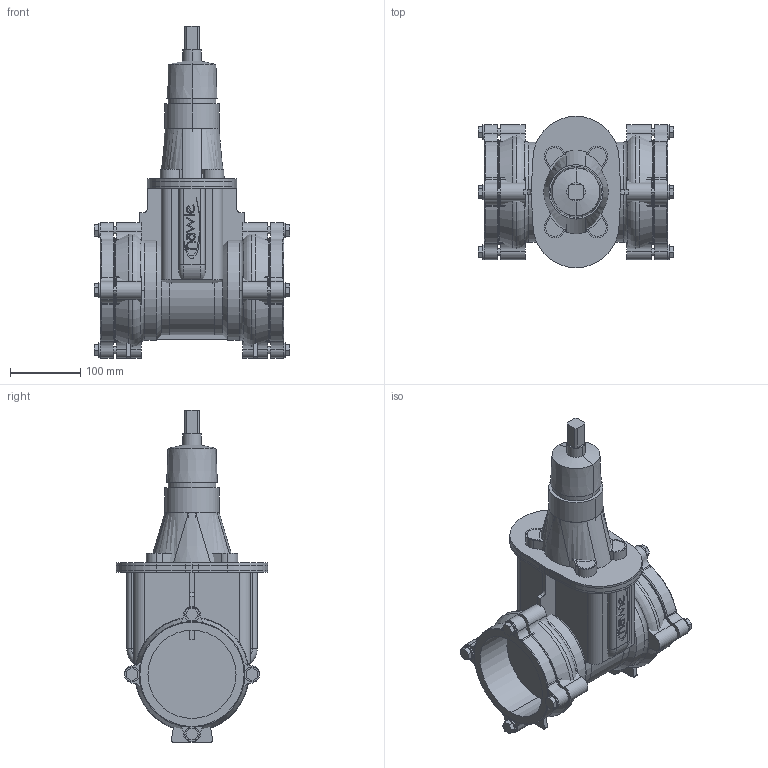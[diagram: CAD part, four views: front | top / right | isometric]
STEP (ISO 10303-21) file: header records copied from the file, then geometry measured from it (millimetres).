
FILE_DESCRIPTION(('STEP AP214'),'1');
FILE_NAME('S:/EK/USER/CAT6/3DHomepage/4040E2/4040E2-PN16-DN100-125.STP','2012-04-24T11:00:34',(' '),(' '),'Spatial InterOp 3D',' ',' ');
FILE_SCHEMA(('automotive_design'));
Length unit declared in the file: millimetre
Products named in the file (89): 3D-Objekt
Bounding box: 276.8 x 214.99 x 471 mm (x, y, z)
Volume: 6517400.2 mm3; surface area: 836839.7 mm2
Topology: 89 solids, 89 shells, 759 faces, 1717 edges, 1142 vertices
Faces by surface type: plane 419, cylinder 282, torus 28, cone 18, bspline 12
Entity records: 29740 total; most frequent: DIRECTION 4089, CARTESIAN_POINT 3911, ORIENTED_EDGE 3434, EDGE_CURVE 1717, AXIS2_PLACEMENT_3D 1536, VERTEX_POINT 1142, LINE 1017, VECTOR 1017
